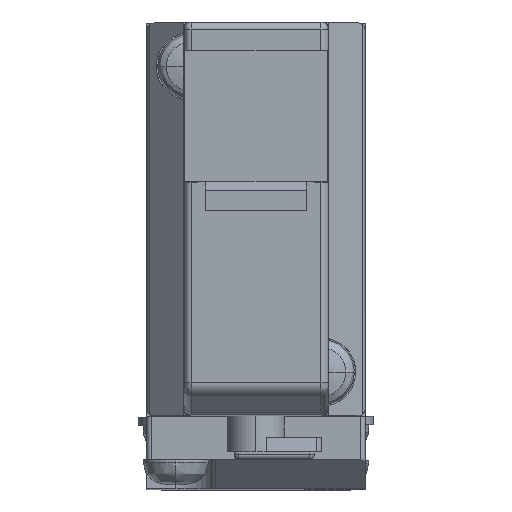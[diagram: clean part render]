
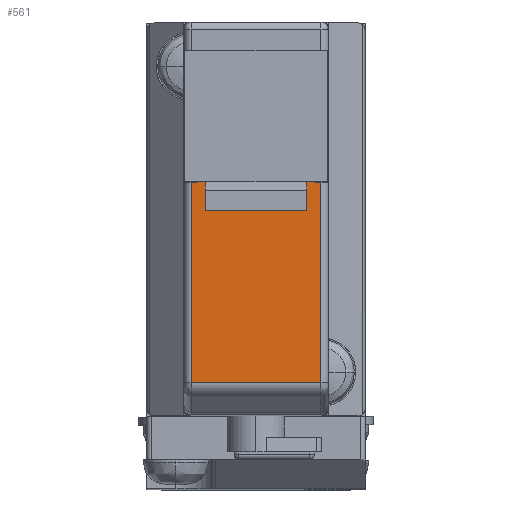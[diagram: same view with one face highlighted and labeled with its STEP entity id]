
A CAD part, top view. The second image highlights one B-rep face of the part: STEP entity #561.
In plain terms, the highlighted planar face has unit normal (0, 0, 1).
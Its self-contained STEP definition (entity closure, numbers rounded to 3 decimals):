
#561=ADVANCED_FACE('',(#3333),#3332,.F.);
#3332=PLANE('',#6144);
#3333=FACE_OUTER_BOUND('',#6145,.T.);
#6141=CARTESIAN_POINT('',(5.34,-26.283,27.4));
#6142=DIRECTION('',(0.,0.,-1.));
#6143=DIRECTION('',(-1.,0.,0.));
#6144=AXIS2_PLACEMENT_3D('',#6141,#6142,#6143);
#6145=EDGE_LOOP('',(#8203,#8204,#8205,#8206,#8207,#8208,#8209,#8210));
#8203=ORIENTED_EDGE('',*,*,#9521,.F.);
#8204=ORIENTED_EDGE('',*,*,#9528,.T.);
#8205=ORIENTED_EDGE('',*,*,#9529,.T.);
#8206=ORIENTED_EDGE('',*,*,#9530,.T.);
#8207=ORIENTED_EDGE('',*,*,#9513,.F.);
#8208=ORIENTED_EDGE('',*,*,#9449,.F.);
#8209=ORIENTED_EDGE('',*,*,#9458,.F.);
#8210=ORIENTED_EDGE('',*,*,#9451,.T.);
#9449=EDGE_CURVE('',#13954,#13939,#13961,.T.);
#9451=EDGE_CURVE('',#13975,#13968,#13976,.T.);
#9458=EDGE_CURVE('',#13975,#13954,#14021,.T.);
#9513=EDGE_CURVE('',#13939,#14391,#14392,.T.);
#9521=EDGE_CURVE('',#14438,#13968,#14445,.T.);
#9528=EDGE_CURVE('',#14438,#14491,#14492,.T.);
#9529=EDGE_CURVE('',#14491,#14498,#14499,.T.);
#9530=EDGE_CURVE('',#14498,#14391,#14505,.T.);
#13939=VERTEX_POINT('',#18767);
#13954=VERTEX_POINT('',#18776);
#13961=LINE('',#18780,#18781);
#13968=VERTEX_POINT('',#18784);
#13975=VERTEX_POINT('',#18788);
#13976=LINE('',#18789,#18790);
#14021=LINE('',#18813,#18814);
#14391=VERTEX_POINT('',#19022);
#14392=LINE('',#19023,#19024);
#14438=VERTEX_POINT('',#19049);
#14445=LINE('',#19054,#19055);
#14491=VERTEX_POINT('',#19079);
#14492=LINE('',#19080,#19081);
#14498=VERTEX_POINT('',#19083);
#14499=LINE('',#19084,#19085);
#14505=LINE('',#19087,#19088);
#18767=CARTESIAN_POINT('',(4.,-11.,27.4));
#18776=CARTESIAN_POINT('',(4.,-9.5,27.4));
#18780=CARTESIAN_POINT('',(4.,-9.5,27.4));
#18781=VECTOR('',#18782,1.5);
#18782=DIRECTION('',(0.,-1.,0.));
#18784=CARTESIAN_POINT('',(-4.,-11.,27.4));
#18788=CARTESIAN_POINT('',(-4.,-9.5,27.4));
#18789=CARTESIAN_POINT('',(-4.,-9.5,27.4));
#18790=VECTOR('',#18791,1.5);
#18791=DIRECTION('',(0.,-1.,0.));
#18813=CARTESIAN_POINT('',(-4.,-9.5,27.4));
#18814=VECTOR('',#18815,8.);
#18815=DIRECTION('',(1.,0.,0.));
#19022=CARTESIAN_POINT('',(4.45,-11.,27.4));
#19023=CARTESIAN_POINT('',(4.,-11.,27.4));
#19024=VECTOR('',#19025,0.45);
#19025=DIRECTION('',(1.,0.,0.));
#19049=CARTESIAN_POINT('',(-4.45,-11.,27.4));
#19054=CARTESIAN_POINT('',(-4.45,-11.,27.4));
#19055=VECTOR('',#19056,0.45);
#19056=DIRECTION('',(1.,0.,0.));
#19079=CARTESIAN_POINT('',(-4.45,-24.758,27.4));
#19080=CARTESIAN_POINT('',(-4.45,-11.,27.4));
#19081=VECTOR('',#19082,13.758);
#19082=DIRECTION('',(0.,-1.,0.));
#19083=CARTESIAN_POINT('',(4.45,-24.758,27.4));
#19084=CARTESIAN_POINT('',(-4.45,-24.758,27.4));
#19085=VECTOR('',#19086,8.9);
#19086=DIRECTION('',(1.,0.,0.));
#19087=CARTESIAN_POINT('',(4.45,-24.758,27.4));
#19088=VECTOR('',#19089,13.758);
#19089=DIRECTION('',(0.,1.,0.));
